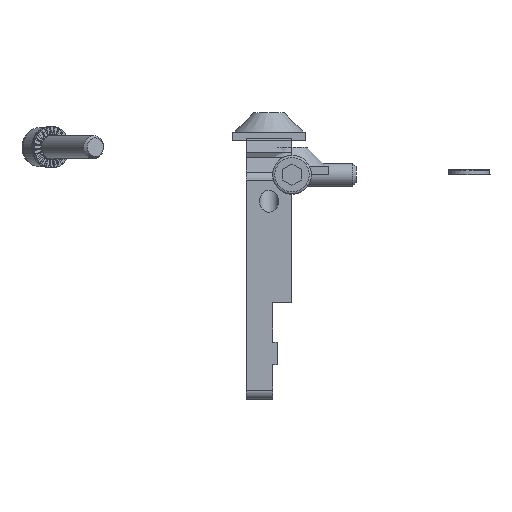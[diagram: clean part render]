
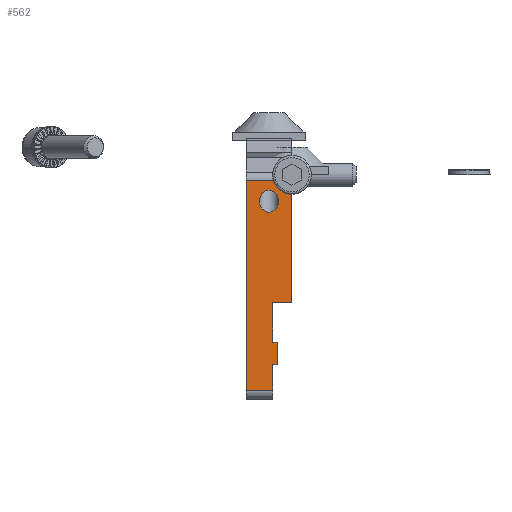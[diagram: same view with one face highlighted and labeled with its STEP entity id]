
A CAD part, left-side view. The second image highlights one B-rep face of the part: STEP entity #562.
In plain terms, the highlighted planar face has unit normal (-1, 0, 0).
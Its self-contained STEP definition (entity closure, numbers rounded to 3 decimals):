
#562 = ADVANCED_FACE( '', ( #1257, #1258 ), #1259, .F. );
#1257 = FACE_BOUND( '', #2097, .T. );
#1258 = FACE_OUTER_BOUND( '', #2098, .T. );
#1259 = PLANE( '', #2099 );
#2097 = EDGE_LOOP( '', ( #3931 ) );
#2098 = EDGE_LOOP( '', ( #3932, #3933, #3934, #3935, #3936, #3937, #3938, #3939, #3940, #3941 ) );
#2099 = AXIS2_PLACEMENT_3D( '', #3942, #3943, #3944 );
#3931 = ORIENTED_EDGE( '', *, *, #5766, .T. );
#3932 = ORIENTED_EDGE( '', *, *, #5767, .F. );
#3933 = ORIENTED_EDGE( '', *, *, #5518, .T. );
#3934 = ORIENTED_EDGE( '', *, *, #5127, .T. );
#3935 = ORIENTED_EDGE( '', *, *, #5768, .T. );
#3936 = ORIENTED_EDGE( '', *, *, #5769, .T. );
#3937 = ORIENTED_EDGE( '', *, *, #5497, .T. );
#3938 = ORIENTED_EDGE( '', *, *, #5770, .F. );
#3939 = ORIENTED_EDGE( '', *, *, #5202, .T. );
#3940 = ORIENTED_EDGE( '', *, *, #5131, .T. );
#3941 = ORIENTED_EDGE( '', *, *, #5771, .T. );
#3942 = CARTESIAN_POINT( '', ( -12.5, 10., -48.91 ) );
#3943 = DIRECTION( '', ( 1., 0., 0. ) );
#3944 = DIRECTION( '', ( 0., 0., -1. ) );
#5127 = EDGE_CURVE( '', #6193, #6191, #6194, .T. );
#5131 = EDGE_CURVE( '', #6201, #6199, #6202, .T. );
#5202 = EDGE_CURVE( '', #6320, #6201, #6322, .T. );
#5497 = EDGE_CURVE( '', #6821, #6818, #6822, .F. );
#5518 = EDGE_CURVE( '', #6851, #6193, #6852, .T. );
#5766 = EDGE_CURVE( '', #7202, #7202, #7203, .T. );
#5767 = EDGE_CURVE( '', #6851, #7204, #7205, .T. );
#5768 = EDGE_CURVE( '', #6191, #7206, #7207, .T. );
#5769 = EDGE_CURVE( '', #7206, #6821, #7208, .T. );
#5770 = EDGE_CURVE( '', #6320, #6818, #7209, .T. );
#5771 = EDGE_CURVE( '', #6199, #7204, #7210, .T. );
#6191 = VERTEX_POINT( '', #7724 );
#6193 = VERTEX_POINT( '', #7727 );
#6194 = LINE( '', #7728, #7729 );
#6199 = VERTEX_POINT( '', #7735 );
#6201 = VERTEX_POINT( '', #7738 );
#6202 = LINE( '', #7739, #7740 );
#6320 = VERTEX_POINT( '', #7899 );
#6322 = LINE( '', #7901, #7902 );
#6818 = VERTEX_POINT( '', #8555 );
#6821 = VERTEX_POINT( '', #8558 );
#6822 = LINE( '', #8559, #8560 );
#6851 = VERTEX_POINT( '', #8600 );
#6852 = LINE( '', #8601, #8602 );
#7202 = VERTEX_POINT( '', #9073 );
#7203 = ELLIPSE( '', #9074, 2.387, 2.067 );
#7204 = VERTEX_POINT( '', #9075 );
#7205 = LINE( '', #9076, #9077 );
#7206 = VERTEX_POINT( '', #9078 );
#7207 = LINE( '', #9079, #9080 );
#7208 = LINE( '', #9081, #9082 );
#7209 = LINE( '', #9083, #9084 );
#7210 = LINE( '', #9085, #9086 );
#7724 = CARTESIAN_POINT( '', ( -12.5, 4.2, -27.91 ) );
#7727 = CARTESIAN_POINT( '', ( -12.5, 4.2, -36.46 ) );
#7728 = CARTESIAN_POINT( '', ( -12.5, 4.2, -36.46 ) );
#7729 = VECTOR( '', #9547, 1000. );
#7735 = CARTESIAN_POINT( '', ( -12.5, 4.2, -41.36 ) );
#7738 = CARTESIAN_POINT( '', ( -12.5, 4.2, -46.91 ) );
#7739 = CARTESIAN_POINT( '', ( -12.5, 4.2, -48.91 ) );
#7740 = VECTOR( '', #9553, 1000. );
#7899 = CARTESIAN_POINT( '', ( -12.5, 10., -46.91 ) );
#7901 = CARTESIAN_POINT( '', ( -12.5, 10., -46.91 ) );
#7902 = VECTOR( '', #9637, 1000. );
#8555 = CARTESIAN_POINT( '', ( -12.5, 10., -1.155 ) );
#8558 = CARTESIAN_POINT( '', ( -12.5, 0., -1.155 ) );
#8559 = CARTESIAN_POINT( '', ( -12.5, 10., -1.155 ) );
#8560 = VECTOR( '', #10098, 1000. );
#8600 = CARTESIAN_POINT( '', ( -12.5, 3.2, -36.46 ) );
#8601 = CARTESIAN_POINT( '', ( -12.5, 1.7, -36.46 ) );
#8602 = VECTOR( '', #10119, 1000. );
#9073 = CARTESIAN_POINT( '', ( -12.5, 5., -3.387 ) );
#9074 = AXIS2_PLACEMENT_3D( '', #10469, #10470, #10471 );
#9075 = CARTESIAN_POINT( '', ( -12.5, 3.2, -41.36 ) );
#9076 = CARTESIAN_POINT( '', ( -12.5, 3.2, -48.91 ) );
#9077 = VECTOR( '', #10472, 1000. );
#9078 = CARTESIAN_POINT( '', ( -12.5, 0., -27.91 ) );
#9079 = CARTESIAN_POINT( '', ( -12.5, 4.2, -27.91 ) );
#9080 = VECTOR( '', #10473, 1000. );
#9081 = CARTESIAN_POINT( '', ( -12.5, 0., -48.91 ) );
#9082 = VECTOR( '', #10474, 1000. );
#9083 = CARTESIAN_POINT( '', ( -12.5, 10., -48.91 ) );
#9084 = VECTOR( '', #10475, 1000. );
#9085 = CARTESIAN_POINT( '', ( -12.5, 4.2, -41.36 ) );
#9086 = VECTOR( '', #10476, 1000. );
#9547 = DIRECTION( '', ( 0., 0., 1. ) );
#9553 = DIRECTION( '', ( 0., 0., 1. ) );
#9637 = DIRECTION( '', ( 0., -1., 0. ) );
#10098 = DIRECTION( '', ( 0., -1., 0. ) );
#10119 = DIRECTION( '', ( 0., 1., 0. ) );
#10469 = CARTESIAN_POINT( '', ( -12.5, 5., -5.774 ) );
#10470 = DIRECTION( '', ( 1., 0., 0. ) );
#10471 = DIRECTION( '', ( 0., 0., 1. ) );
#10472 = DIRECTION( '', ( 0., 0., -1. ) );
#10473 = DIRECTION( '', ( 0., -1., 0. ) );
#10474 = DIRECTION( '', ( 0., 0., 1. ) );
#10475 = DIRECTION( '', ( 0., 0., 1. ) );
#10476 = DIRECTION( '', ( 0., -1., 0. ) );
